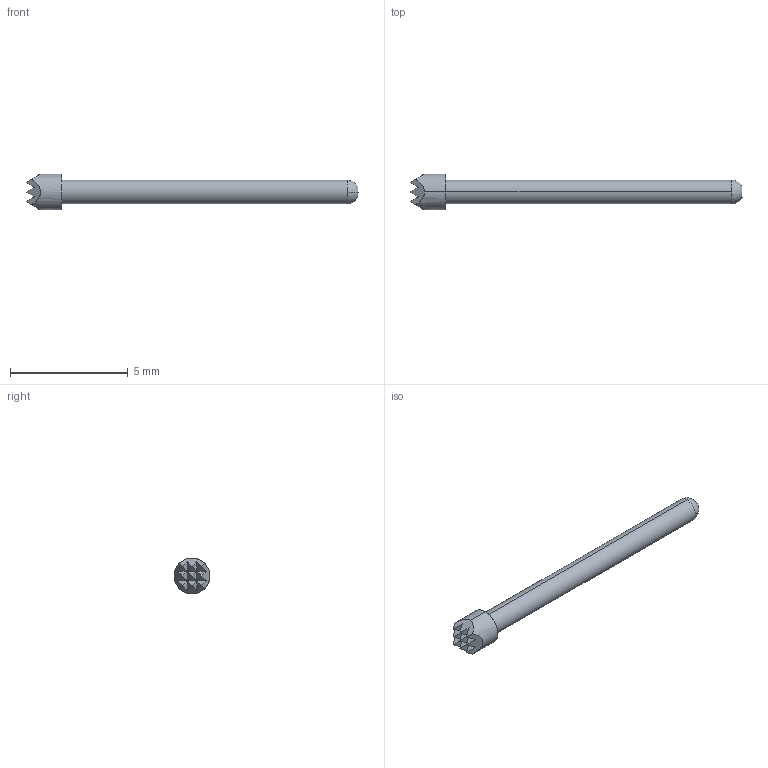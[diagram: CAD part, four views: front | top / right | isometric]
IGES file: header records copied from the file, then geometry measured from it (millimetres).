
Start section: SolidWorks IGES file using analytic representation for surfaces
Global section: file name: Z:\probe solid model mockups\Solidworks models\IGES Files\HPA-1\HPA-1H Full.IGS; native system: SolidWorks 2006 by SolidWorks Corporation; preprocessor: SolidWorks 2006 by SolidWorks Corporation; author: tsakatani; date: 071220.112426; units: inch
Bounding box: 14.1 x 1.52 x 1.52 mm (x, y, z)
Surface area: 49.9 mm2 (no closed solid volume)
Topology: 0 solids, 0 shells, 36 faces, 218 edges, 218 vertices
Faces by surface type: bspline 30, revolution 6
